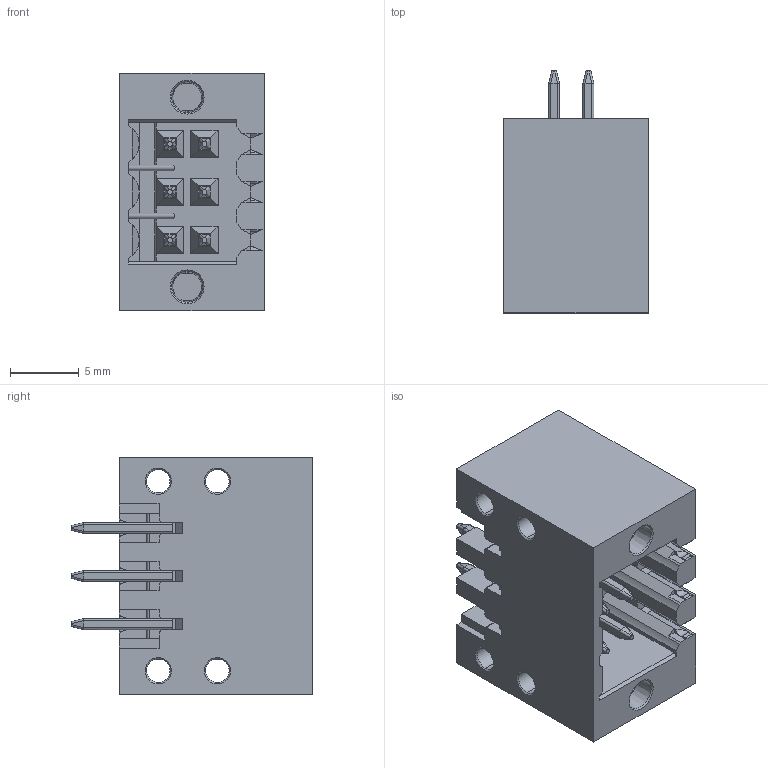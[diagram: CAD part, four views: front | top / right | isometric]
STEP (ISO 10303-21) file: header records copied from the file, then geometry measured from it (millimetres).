
FILE_DESCRIPTION((''),'2;1');
FILE_NAME('VX0612300000G','2021-05-13T',('renkang.li'),(''),'CREO PARAMETRIC BY PTC INC, 2016260','CREO PARAMETRIC BY PTC INC, 2016260','');
FILE_SCHEMA(('CONFIG_CONTROL_DESIGN'));
Length unit declared in the file: millimetre
Products named in the file (1): VX0612300000G
Bounding box: 10.5 x 17.6 x 17.3 mm (x, y, z)
Volume: 1292.7 mm3; surface area: 2807.5 mm2
Topology: 1 solids, 13 shells, 911 faces, 2541 edges, 1679 vertices
Faces by surface type: plane 634, cylinder 137, torus 96, extrusion 24, cone 20
Entity records: 30973 total; most frequent: CARTESIAN_POINT 8038, ORIENTED_EDGE 5082, DIRECTION 4264, EDGE_CURVE 2541, VECTOR 1760, LINE 1736, VERTEX_POINT 1679, AXIS2_PLACEMENT_3D 1252
